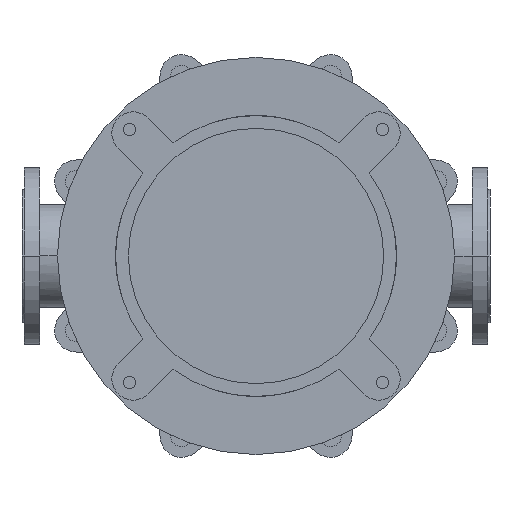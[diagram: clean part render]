
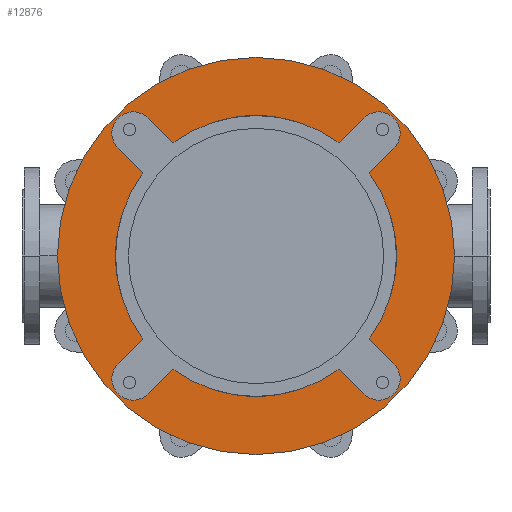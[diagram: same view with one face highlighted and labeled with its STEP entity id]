
A CAD part, front view. The second image highlights one B-rep face of the part: STEP entity #12876.
In plain terms, the highlighted planar face has unit normal (0, -1, 0).
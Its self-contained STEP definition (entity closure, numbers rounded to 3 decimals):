
#2527=CARTESIAN_POINT('',(0.,-25.,0.));
#2528=DIRECTION('',(0.,1.,0.));
#2529=DIRECTION('',(0.592,0.,-0.806));
#2530=AXIS2_PLACEMENT_3D('',#2527,#2528,#2529);
#2545=CARTESIAN_POINT('',(0.,-25.,0.));
#2546=DIRECTION('',(0.,1.,0.));
#2547=DIRECTION('',(0.806,0.,0.592));
#2548=AXIS2_PLACEMENT_3D('',#2545,#2546,#2547);
#2572=CARTESIAN_POINT('',(0.,-25.,0.));
#2573=DIRECTION('',(0.,1.,0.));
#2574=DIRECTION('',(-0.806,0.,-0.592));
#2575=AXIS2_PLACEMENT_3D('',#2572,#2573,#2574);
#2581=CARTESIAN_POINT('',(0.,-25.,0.));
#2582=DIRECTION('',(0.,1.,0.));
#2583=DIRECTION('',(-0.592,0.,0.806));
#2584=AXIS2_PLACEMENT_3D('',#2581,#2582,#2583);
#2759=CARTESIAN_POINT('',(0.,-25.,0.));
#2760=DIRECTION('',(0.,-1.,0.));
#2761=DIRECTION('',(-1.,0.,0.));
#2762=AXIS2_PLACEMENT_3D('',#2759,#2760,#2761);
#2764=CARTESIAN_POINT('',(0.,-25.,0.));
#2765=DIRECTION('',(0.,1.,0.));
#2766=DIRECTION('',(-1.,0.,0.));
#2767=AXIS2_PLACEMENT_3D('',#2764,#2765,#2766);
#2769=CARTESIAN_POINT('',(-173.241,-25.,173.241));
#2770=DIRECTION('',(0.,-1.,0.));
#2771=DIRECTION('',(0.707,0.,0.707));
#2772=AXIS2_PLACEMENT_3D('',#2769,#2770,#2771);
#2774=DIRECTION('',(0.707,0.,-0.707));
#2775=VECTOR('',#2774,49.286);
#2776=CARTESIAN_POINT('',(-194.454,-25.,152.028));
#2777=LINE('',#2776,#2775);
#2778=DIRECTION('',(-0.707,0.,-0.707));
#2779=VECTOR('',#2778,49.286);
#2780=CARTESIAN_POINT('',(-159.604,-25.,-117.178));
#2781=LINE('',#2780,#2779);
#2782=CARTESIAN_POINT('',(-173.241,-25.,-173.241));
#2783=DIRECTION('',(0.,-1.,0.));
#2784=DIRECTION('',(-0.707,0.,0.707));
#2785=AXIS2_PLACEMENT_3D('',#2782,#2783,#2784);
#2787=DIRECTION('',(0.707,0.,0.707));
#2788=VECTOR('',#2787,49.286);
#2789=CARTESIAN_POINT('',(-152.028,-25.,-194.454));
#2790=LINE('',#2789,#2788);
#2791=DIRECTION('',(0.707,0.,-0.707));
#2792=VECTOR('',#2791,49.286);
#2793=CARTESIAN_POINT('',(117.178,-25.,-159.604));
#2794=LINE('',#2793,#2792);
#2795=CARTESIAN_POINT('',(173.241,-25.,-173.241));
#2796=DIRECTION('',(0.,-1.,0.));
#2797=DIRECTION('',(-0.707,0.,-0.707));
#2798=AXIS2_PLACEMENT_3D('',#2795,#2796,#2797);
#2800=DIRECTION('',(-0.707,0.,0.707));
#2801=VECTOR('',#2800,49.286);
#2802=CARTESIAN_POINT('',(194.454,-25.,-152.028));
#2803=LINE('',#2802,#2801);
#2804=DIRECTION('',(0.707,0.,0.707));
#2805=VECTOR('',#2804,49.286);
#2806=CARTESIAN_POINT('',(159.604,-25.,117.178));
#2807=LINE('',#2806,#2805);
#2808=CARTESIAN_POINT('',(173.241,-25.,173.241));
#2809=DIRECTION('',(0.,-1.,0.));
#2810=DIRECTION('',(0.707,0.,-0.707));
#2811=AXIS2_PLACEMENT_3D('',#2808,#2809,#2810);
#2813=DIRECTION('',(-0.707,0.,-0.707));
#2814=VECTOR('',#2813,49.286);
#2815=CARTESIAN_POINT('',(152.028,-25.,194.454));
#2816=LINE('',#2815,#2814);
#2817=DIRECTION('',(-0.707,0.,0.707));
#2818=VECTOR('',#2817,49.286);
#2819=CARTESIAN_POINT('',(-117.178,-25.,159.604));
#2820=LINE('',#2819,#2818);
#8389=CARTESIAN_POINT('',(-280.,-25.,0.));
#8390=CARTESIAN_POINT('',(280.,-25.,0.));
#8391=VERTEX_POINT('',#8389);
#8392=VERTEX_POINT('',#8390);
#8413=CARTESIAN_POINT('',(-194.454,-25.,-152.028));
#8414=CARTESIAN_POINT('',(-152.028,-25.,-194.454));
#8415=VERTEX_POINT('',#8413);
#8416=VERTEX_POINT('',#8414);
#8417=CARTESIAN_POINT('',(-117.178,-25.,-159.604));
#8418=VERTEX_POINT('',#8417);
#8419=CARTESIAN_POINT('',(-159.604,-25.,-117.178));
#8420=VERTEX_POINT('',#8419);
#8429=CARTESIAN_POINT('',(152.028,-25.,-194.454));
#8430=CARTESIAN_POINT('',(194.454,-25.,-152.028));
#8431=VERTEX_POINT('',#8429);
#8432=VERTEX_POINT('',#8430);
#8433=CARTESIAN_POINT('',(159.604,-25.,-117.178));
#8434=VERTEX_POINT('',#8433);
#8435=CARTESIAN_POINT('',(117.178,-25.,-159.604));
#8436=VERTEX_POINT('',#8435);
#8445=CARTESIAN_POINT('',(194.454,-25.,152.028));
#8446=CARTESIAN_POINT('',(152.028,-25.,194.454));
#8447=VERTEX_POINT('',#8445);
#8448=VERTEX_POINT('',#8446);
#8449=CARTESIAN_POINT('',(117.178,-25.,159.604));
#8450=VERTEX_POINT('',#8449);
#8451=CARTESIAN_POINT('',(159.604,-25.,117.178));
#8452=VERTEX_POINT('',#8451);
#8461=CARTESIAN_POINT('',(-152.028,-25.,194.454));
#8462=CARTESIAN_POINT('',(-194.454,-25.,152.028));
#8463=VERTEX_POINT('',#8461);
#8464=VERTEX_POINT('',#8462);
#8465=CARTESIAN_POINT('',(-159.604,-25.,117.178));
#8466=VERTEX_POINT('',#8465);
#8467=CARTESIAN_POINT('',(-117.178,-25.,159.604));
#8468=VERTEX_POINT('',#8467);
#12836=CARTESIAN_POINT('',(0.,-25.,0.));
#12837=DIRECTION('',(0.,-1.,0.));
#12838=DIRECTION('',(-1.,0.,0.));
#12839=AXIS2_PLACEMENT_3D('',#12836,#12837,#12838);
#12840=PLANE('',#12839);
#12842=ORIENTED_EDGE('',*,*,#12841,.F.);
#12844=ORIENTED_EDGE('',*,*,#12843,.T.);
#12845=EDGE_LOOP('',(#12842,#12844));
#12846=FACE_OUTER_BOUND('',#12845,.F.);
#12848=ORIENTED_EDGE('',*,*,#12847,.T.);
#12850=ORIENTED_EDGE('',*,*,#12849,.T.);
#12851=ORIENTED_EDGE('',*,*,#12789,.F.);
#12853=ORIENTED_EDGE('',*,*,#12852,.T.);
#12855=ORIENTED_EDGE('',*,*,#12854,.T.);
#12857=ORIENTED_EDGE('',*,*,#12856,.T.);
#12858=ORIENTED_EDGE('',*,*,#12742,.F.);
#12859=ORIENTED_EDGE('',*,*,#12826,.T.);
#12861=ORIENTED_EDGE('',*,*,#12860,.T.);
#12863=ORIENTED_EDGE('',*,*,#12862,.T.);
#12864=ORIENTED_EDGE('',*,*,#12763,.F.);
#12866=ORIENTED_EDGE('',*,*,#12865,.T.);
#12868=ORIENTED_EDGE('',*,*,#12867,.T.);
#12870=ORIENTED_EDGE('',*,*,#12869,.T.);
#12871=ORIENTED_EDGE('',*,*,#12807,.F.);
#12873=ORIENTED_EDGE('',*,*,#12872,.T.);
#12874=EDGE_LOOP('',(#12848,#12850,#12851,#12853,#12855,#12857,#12858,#12859,
#12861,#12863,#12864,#12866,#12868,#12870,#12871,#12873));
#12875=FACE_BOUND('',#12874,.F.);
#12876=ADVANCED_FACE('',(#12846,#12875),#12840,.T.);
#2531=CIRCLE('',#2530,198.);
#2549=CIRCLE('',#2548,198.);
#2576=CIRCLE('',#2575,198.);
#2585=CIRCLE('',#2584,198.);
#2763=CIRCLE('',#2762,280.);
#2768=CIRCLE('',#2767,280.);
#2773=CIRCLE('',#2772,30.);
#2786=CIRCLE('',#2785,30.);
#2799=CIRCLE('',#2798,30.);
#2812=CIRCLE('',#2811,30.);
#12742=EDGE_CURVE('',#8436,#8418,#2531,.T.);
#12763=EDGE_CURVE('',#8452,#8434,#2549,.T.);
#12789=EDGE_CURVE('',#8420,#8466,#2576,.T.);
#12807=EDGE_CURVE('',#8468,#8450,#2585,.T.);
#12826=EDGE_CURVE('',#8436,#8431,#2794,.T.);
#12841=EDGE_CURVE('',#8391,#8392,#2763,.T.);
#12843=EDGE_CURVE('',#8391,#8392,#2768,.T.);
#12847=EDGE_CURVE('',#8463,#8464,#2773,.T.);
#12849=EDGE_CURVE('',#8464,#8466,#2777,.T.);
#12852=EDGE_CURVE('',#8420,#8415,#2781,.T.);
#12854=EDGE_CURVE('',#8415,#8416,#2786,.T.);
#12856=EDGE_CURVE('',#8416,#8418,#2790,.T.);
#12860=EDGE_CURVE('',#8431,#8432,#2799,.T.);
#12862=EDGE_CURVE('',#8432,#8434,#2803,.T.);
#12865=EDGE_CURVE('',#8452,#8447,#2807,.T.);
#12867=EDGE_CURVE('',#8447,#8448,#2812,.T.);
#12869=EDGE_CURVE('',#8448,#8450,#2816,.T.);
#12872=EDGE_CURVE('',#8468,#8463,#2820,.T.);
